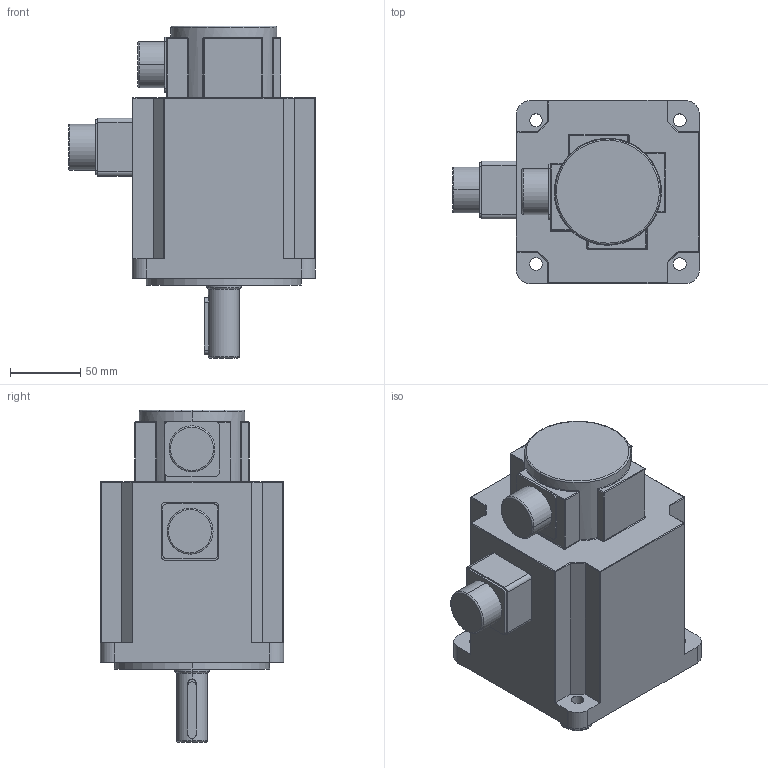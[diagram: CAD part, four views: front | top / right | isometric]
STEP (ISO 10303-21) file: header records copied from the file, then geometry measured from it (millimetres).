
FILE_DESCRIPTION (( 'STEP AP203' ), '1' );
FILE_NAME ('ACH13150CCT6NF.STEP', '2013-02-28T16:01:33', ( '' ), ( '' ), 'SwSTEP 2.0', 'SolidWorks 2012', '' );
FILE_SCHEMA (( 'CONFIG_CONTROL_DESIGN' ));
Length unit declared in the file: millimetre
Products named in the file (1): ACH13150CCT6NF
Bounding box: 175.2 x 130 x 235.5 mm (x, y, z)
Volume: 2324305.4 mm3; surface area: 139040.4 mm2
Topology: 3 solids, 3 shells, 275 faces, 648 edges, 376 vertices
Faces by surface type: cylinder 128, plane 88, torus 27, sphere 24, bspline 8
Entity records: 8136 total; most frequent: CARTESIAN_POINT 1734, DIRECTION 1427, ORIENTED_EDGE 1256, EDGE_CURVE 628, AXIS2_PLACEMENT_3D 559, VERTEX_POINT 376, LINE 309, VECTOR 309
